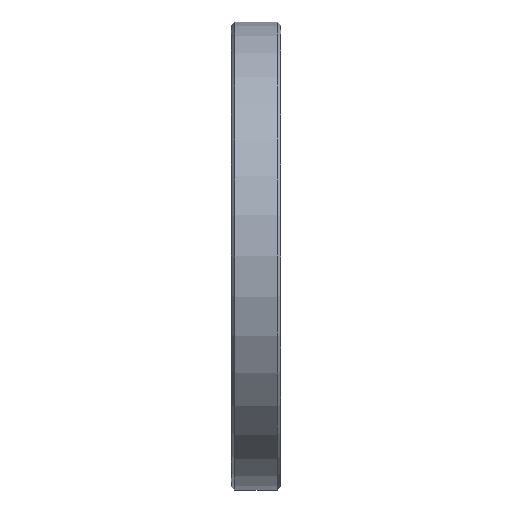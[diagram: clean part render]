
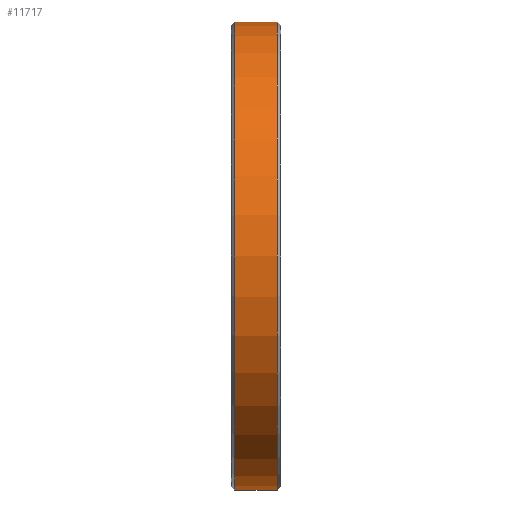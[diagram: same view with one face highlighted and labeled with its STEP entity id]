
A CAD part, left-side view. The second image highlights one B-rep face of the part: STEP entity #11717.
In plain terms, the highlighted cylindrical face has radius 47.5 mm (diameter 95 mm), a partial arc.
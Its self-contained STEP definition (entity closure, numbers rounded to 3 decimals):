
#62 = VERTEX_POINT ( 'NONE', #503 ) ;
#166 = AXIS2_PLACEMENT_3D ( 'NONE', #4879, #3745, #8025 ) ;
#503 = CARTESIAN_POINT ( 'NONE',  ( 0., 4.3, 47.5 ) ) ;
#542 = CARTESIAN_POINT ( 'NONE',  ( 0., 4.3, 0. ) ) ;
#940 = DIRECTION ( 'NONE',  ( 0., 1., 0. ) ) ;
#1577 = FACE_OUTER_BOUND ( 'NONE', #7990, .T. ) ;
#2389 = CARTESIAN_POINT ( 'NONE',  ( 0., 0., -47.5 ) ) ;
#2546 = ORIENTED_EDGE ( 'NONE', *, *, #11510, .T. ) ;
#2813 = ORIENTED_EDGE ( 'NONE', *, *, #2857, .F. ) ;
#2857 = EDGE_CURVE ( 'NONE', #62, #3643, #6653, .T. ) ;
#3100 = AXIS2_PLACEMENT_3D ( 'NONE', #542, #6796, #11079 ) ;
#3238 = DIRECTION ( 'NONE',  ( 0., -1., 0. ) ) ;
#3643 = VERTEX_POINT ( 'NONE', #12002 ) ;
#3745 = DIRECTION ( 'NONE',  ( 0., -1., 0. ) ) ;
#4223 = EDGE_CURVE ( 'NONE', #9787, #5245, #5637, .T. ) ;
#4879 = CARTESIAN_POINT ( 'NONE',  ( 0., 0., 0. ) ) ;
#4907 = CARTESIAN_POINT ( 'NONE',  ( 0., -4.3, -47.5 ) ) ;
#5234 = DIRECTION ( 'NONE',  ( 0., 0., -1. ) ) ;
#5245 = VERTEX_POINT ( 'NONE', #4907 ) ;
#5637 = LINE ( 'NONE', #2389, #6238 ) ;
#6238 = VECTOR ( 'NONE', #3238, 1000. ) ;
#6289 = CARTESIAN_POINT ( 'NONE',  ( 0., -4.3, 0. ) ) ;
#6580 = CARTESIAN_POINT ( 'NONE',  ( 0., 0., 47.5 ) ) ;
#6653 = LINE ( 'NONE', #6580, #11659 ) ;
#6796 = DIRECTION ( 'NONE',  ( 0., -1., 0. ) ) ;
#7990 = EDGE_LOOP ( 'NONE', ( #2813, #8461, #11931, #2546 ) ) ;
#8025 = DIRECTION ( 'NONE',  ( 0., 0., -1. ) ) ;
#8244 = CIRCLE ( 'NONE', #3100, 47.5 ) ;
#8461 = ORIENTED_EDGE ( 'NONE', *, *, #12481, .T. ) ;
#9003 = CARTESIAN_POINT ( 'NONE',  ( 0., 4.3, -47.5 ) ) ;
#9787 = VERTEX_POINT ( 'NONE', #9003 ) ;
#10129 = CYLINDRICAL_SURFACE ( 'NONE', #166, 47.5 ) ;
#10671 = CIRCLE ( 'NONE', #12482, 47.5 ) ;
#11079 = DIRECTION ( 'NONE',  ( 0., 0., 1. ) ) ;
#11510 = EDGE_CURVE ( 'NONE', #5245, #3643, #10671, .T. ) ;
#11659 = VECTOR ( 'NONE', #13039, 1000. ) ;
#11717 = ADVANCED_FACE ( 'NONE', ( #1577 ), #10129, .T. ) ;
#11931 = ORIENTED_EDGE ( 'NONE', *, *, #4223, .T. ) ;
#12002 = CARTESIAN_POINT ( 'NONE',  ( 0., -4.3, 47.5 ) ) ;
#12481 = EDGE_CURVE ( 'NONE', #62, #9787, #8244, .T. ) ;
#12482 = AXIS2_PLACEMENT_3D ( 'NONE', #6289, #940, #5234 ) ;
#13039 = DIRECTION ( 'NONE',  ( 0., -1., 0. ) ) ;
